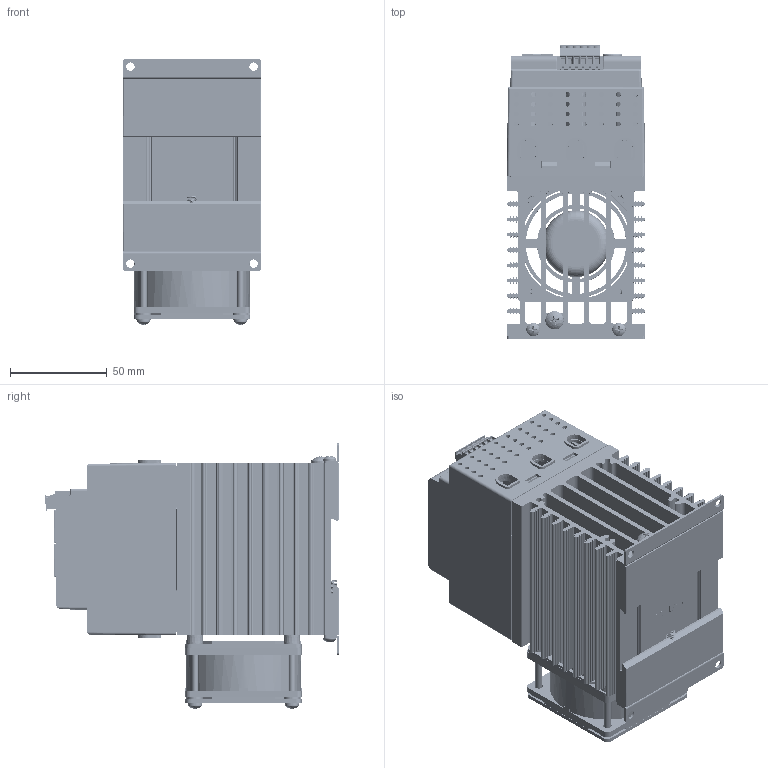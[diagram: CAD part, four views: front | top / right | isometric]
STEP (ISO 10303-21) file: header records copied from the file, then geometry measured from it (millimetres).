
FILE_DESCRIPTION(/* description */ (''),/* implementation_level */ '2;1');
FILE_NAME(/* name */ '3-phase EtherCAT 50+80A w-tabs.stp',/* time_stamp */ '2024-11-15T10:01:49-06:00',/* author */ ('ErikG'),/* organization */ (''),/* preprocessor_version */ 'ST-DEVELOPER v20',/* originating_system */ 'Autodesk Inventor 2025',/* authorisation */ '');
FILE_SCHEMA (('AUTOMOTIVE_DESIGN { 1 0 10303 214 3 1 1 }'));
Products named in the file (40): 3001632e; SCA-3TC; P1; usb-c31-s-vt-cs4-bk-pp-t-r-model ADAMTECH; P6; fci 6 pin header OQ06120000J0G; fci 6 pin headerOQ06120000J0G half 1; fci 5 pin header OQ05120000J0G half 2; fci 6 pin connector TS06110B00J0G; fci 5 pin connector TS05110B00J0G LEFT HALF; fci 5 pin connector TS05110B00J0G RIGHT HALF; P2; TC0203620000G; P11; P5; 74990101210 (rev1); base; shielding; SCA-3TC_1; SW3; SW2; SH-7070TA; _SH-7070A_body; _SH-700-Without knob (Minus slot); 3001769C_ecat cutouts; 3001761; 3001759; 3001766; 3001765b; 3001746; spring; 0060783-0610-010.ipt; 0060702-1032-0375; 0060002-0632-1175; 62111-0006-0; 3001772; 3001773; 2R36_SQ_FAN_1R0 depth; 3001753; 0060002-0632-0375
Assembly tree (53 placements, depth 6):
  3001632e
    SCA-3TC
      P1
        usb-c31-s-vt-cs4-bk-pp-t-r-model ADAMTECH
      P6
        fci 6 pin header OQ06120000J0G
          fci 6 pin headerOQ06120000J0G half 1
          fci 5 pin header OQ05120000J0G half 2
          fci 6 pin connector TS06110B00J0G
            fci 5 pin connector TS05110B00J0G LEFT HALF
            fci 5 pin connector TS05110B00J0G RIGHT HALF
      P2
        TC0203620000G
      P11
        74990101210 (rev1)
          base
          shielding
      P5
        74990101210 (rev1)
          base
          shielding
    SCA-3TC_1
      SW3
        SH-7070TA
          _SH-7070A_body
          _SH-700-Without knob (Minus slot)
      SW2
        SH-7070TA
          _SH-7070A_body
          _SH-700-Without knob (Minus slot)
    3001769C_ecat cutouts
    3001761  x3
    3001759
    3001766
    3001765b
    3001746
    spring
    0060783-0610-010.ipt
    0060702-1032-0375
    0060002-0632-1175  x4
    62111-0006-0  x4
    3001772
    3001773
    2R36_SQ_FAN_1R0 depth
    3001753  x2
    0060002-0632-0375  x4
Bounding box: 71.12 x 151.53 x 136.93 mm (x, y, z)
Volume: 347904.2 mm3; surface area: 310613.7 mm2
Topology: 43 solids, 137 shells, 11403 faces, 31961 edges, 21041 vertices
Faces by surface type: plane 8523, cylinder 2066, cone 465, bspline 198, torus 124, sphere 27
Full cylindrical faces by diameter (mm): 0.254 x1, 0.45 x2, 0.55 x2, 0.65 x2, 1 x6, 1.2 x2, 1.75 x2, 2.15 x12, 2.3 x12, 2.642 x6, 2.7 x2, 2.8 x4, 2.95 x6, 3.277 x4, 3.28 x2, 3.3 x2, 3.342 x1, 3.4 x2, 3.42 x2, 3.505 x8, 3.6 x2, 4 x2, 4.293 x8, 4.318 x8, 4.826 x1, 4.917 x1, 6 x1, 6.172 x1, 6.731 x2, 6.858 x8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
Entity records: 310022 total; most frequent: CARTESIAN_POINT 78983, ORIENTED_EDGE 49052, DIRECTION 45195, EDGE_CURVE 24526, LINE 18855, VECTOR 18855, VERTEX_POINT 16165, AXIS2_PLACEMENT_3D 13170
